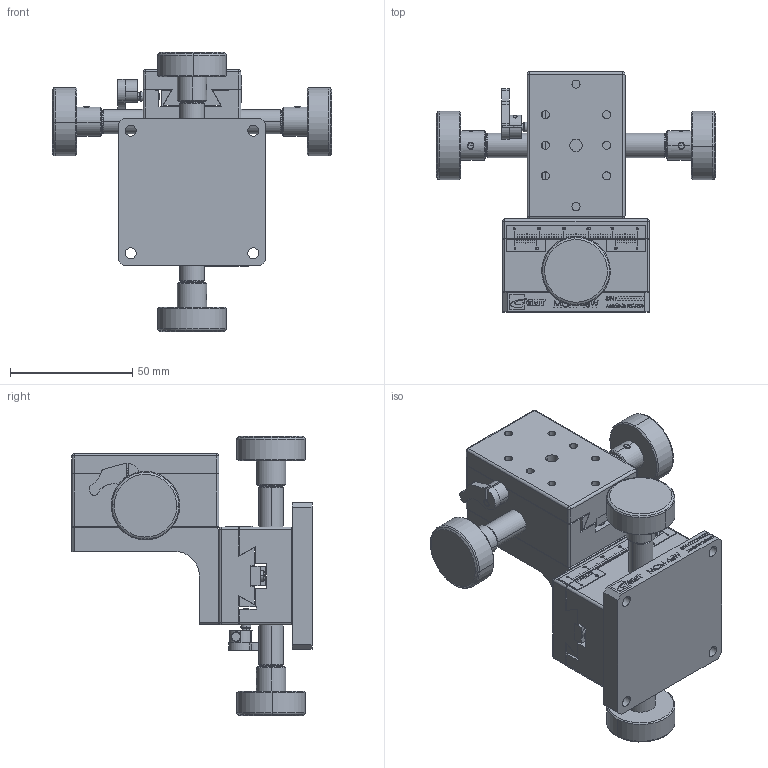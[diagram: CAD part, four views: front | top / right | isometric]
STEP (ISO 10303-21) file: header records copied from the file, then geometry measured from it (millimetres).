
FILE_DESCRIPTION (( 'STEP AP203' ), '1' );
FILE_NAME ('MCM-46WL-(«¬¿ý).STEP', '2013-10-05T02:41:27', ( '' ), ( '' ), 'SwSTEP 2.0', 'SolidWorks 2013', '' );
FILE_SCHEMA (( 'CONFIG_CONTROL_DESIGN' ));
Products named in the file (5): Group1^MCM-46WL-(型錄); MCM-46WL-(型錄); Group4^MCM-46WL-(型錄); Group3^MCM-46WL-(型錄); Group2^MCM-46WL-(型錄)
Assembly tree (4 placements, depth 2):
  MCM-46WL-(型錄)
    Group4^MCM-46WL-(型錄)
    Group3^MCM-46WL-(型錄)
    Group2^MCM-46WL-(型錄)
    Group1^MCM-46WL-(型錄)
Bounding box: 114 x 98 x 114 mm (x, y, z)
Volume: 236478 mm3; surface area: 63847.7 mm2
Topology: 4 solids, 4 shells, 2696 faces, 7239 edges, 4725 vertices
Faces by surface type: plane 1822, bspline 437, cylinder 267, cone 132, torus 22, sphere 16
Entity records: 110717 total; most frequent: CARTESIAN_POINT 45411, ORIENTED_EDGE 14446, DIRECTION 11546, EDGE_CURVE 7223, VECTOR 5390, LINE 5390, VERTEX_POINT 4725, AXIS2_PLACEMENT_3D 3078
